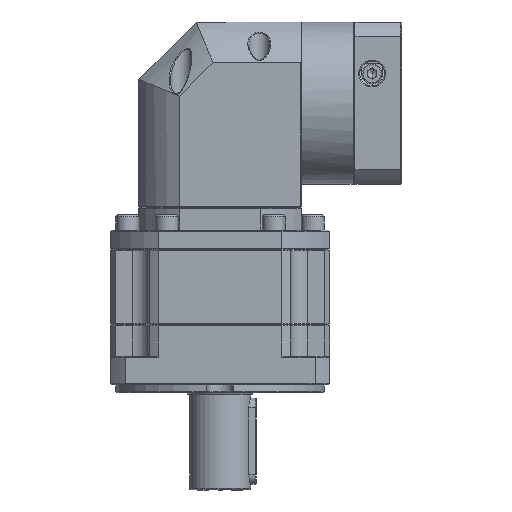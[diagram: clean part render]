
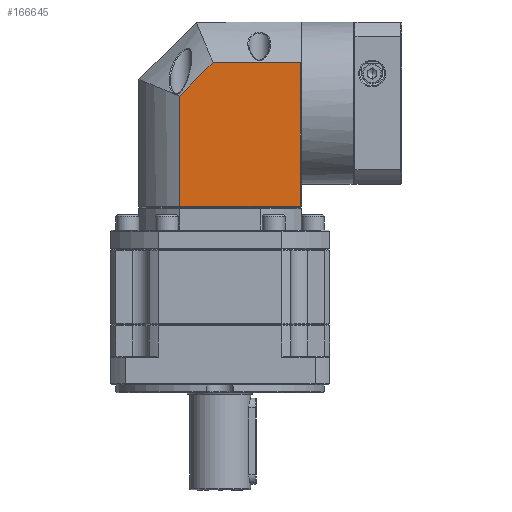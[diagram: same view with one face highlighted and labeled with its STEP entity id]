
A CAD part, front view. The second image highlights one B-rep face of the part: STEP entity #166645.
In plain terms, the highlighted planar face has unit normal (0, -1, 0).
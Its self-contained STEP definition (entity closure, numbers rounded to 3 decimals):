
#6991 = CARTESIAN_POINT ( 'NONE',  ( 72.692, 104.06, -43.163 ) ) ;
#9989 = EDGE_CURVE ( 'NONE', #10294, #145484, #111693, .T. ) ;
#10294 = VERTEX_POINT ( 'NONE', #174249 ) ;
#16167 = VECTOR ( 'NONE', #95051, 1000. ) ;
#18635 = CARTESIAN_POINT ( 'NONE',  ( 72.192, 104.06, 53.337 ) ) ;
#18742 = LINE ( 'NONE', #18635, #89832 ) ;
#19420 = EDGE_CURVE ( 'NONE', #132734, #150754, #72542, .T. ) ;
#20144 = ORIENTED_EDGE ( 'NONE', *, *, #156678, .F. ) ;
#21307 = DIRECTION ( 'NONE',  ( 1., 0., 0. ) ) ;
#26928 = CARTESIAN_POINT ( 'NONE',  ( 72.692, 104.06, 32.05 ) ) ;
#31888 = EDGE_CURVE ( 'NONE', #145484, #132734, #63146, .T. ) ;
#37341 = CARTESIAN_POINT ( 'NONE',  ( 72.692, 104.06, 53.337 ) ) ;
#37940 = CARTESIAN_POINT ( 'NONE',  ( 8.979, 104.06, 14.52 ) ) ;
#50191 = ORIENTED_EDGE ( 'NONE', *, *, #19420, .F. ) ;
#51572 = DIRECTION ( 'NONE',  ( -1., 0., 0. ) ) ;
#51873 = ORIENTED_EDGE ( 'NONE', *, *, #158055, .T. ) ;
#58964 = FACE_OUTER_BOUND ( 'NONE', #80096, .T. ) ;
#63146 = LINE ( 'NONE', #174084, #96508 ) ;
#63597 = ORIENTED_EDGE ( 'NONE', *, *, #31888, .F. ) ;
#71678 = LINE ( 'NONE', #6991, #142811 ) ;
#72542 = LINE ( 'NONE', #26928, #110329 ) ;
#80096 = EDGE_LOOP ( 'NONE', ( #51873, #20144, #50191, #63597, #112800 ) ) ;
#89832 = VECTOR ( 'NONE', #104262, 1000. ) ;
#93038 = CARTESIAN_POINT ( 'NONE',  ( 72.192, 104.06, 32.05 ) ) ;
#95051 = DIRECTION ( 'NONE',  ( 0., 0., 1. ) ) ;
#96508 = VECTOR ( 'NONE', #118184, 1000. ) ;
#100935 = VERTEX_POINT ( 'NONE', #118595 ) ;
#104262 = DIRECTION ( 'NONE',  ( 0., 0., -1. ) ) ;
#110329 = VECTOR ( 'NONE', #112052, 1000. ) ;
#111693 = LINE ( 'NONE', #180060, #16167 ) ;
#112052 = DIRECTION ( 'NONE',  ( 1., 0., 0. ) ) ;
#112800 = ORIENTED_EDGE ( 'NONE', *, *, #9989, .F. ) ;
#118184 = DIRECTION ( 'NONE',  ( 0.707, 0., 0.707 ) ) ;
#118595 = CARTESIAN_POINT ( 'NONE',  ( 72.192, 104.06, -43.163 ) ) ;
#132734 = VERTEX_POINT ( 'NONE', #137986 ) ;
#136672 = DIRECTION ( 'NONE',  ( 0., 1., 0. ) ) ;
#137986 = CARTESIAN_POINT ( 'NONE',  ( 26.51, 104.06, 32.05 ) ) ;
#142811 = VECTOR ( 'NONE', #21307, 1000. ) ;
#145484 = VERTEX_POINT ( 'NONE', #37940 ) ;
#150754 = VERTEX_POINT ( 'NONE', #93038 ) ;
#156678 = EDGE_CURVE ( 'NONE', #150754, #100935, #18742, .T. ) ;
#157297 = AXIS2_PLACEMENT_3D ( 'NONE', #37341, #136672, #51572 ) ;
#158055 = EDGE_CURVE ( 'NONE', #10294, #100935, #71678, .T. ) ;
#164538 = PLANE ( 'NONE',  #157297 ) ;
#166645 = ADVANCED_FACE ( 'NONE', ( #58964 ), #164538, .F. ) ;
#174084 = CARTESIAN_POINT ( 'NONE',  ( 8.979, 104.06, 14.52 ) ) ;
#174249 = CARTESIAN_POINT ( 'NONE',  ( 8.979, 104.06, -43.163 ) ) ;
#180060 = CARTESIAN_POINT ( 'NONE',  ( 8.979, 104.06, 53.337 ) ) ;
